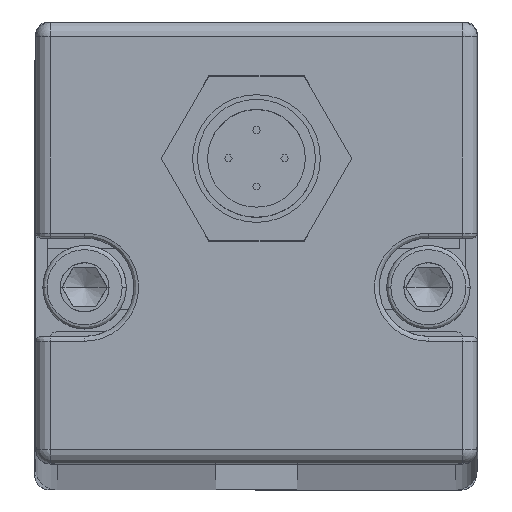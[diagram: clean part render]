
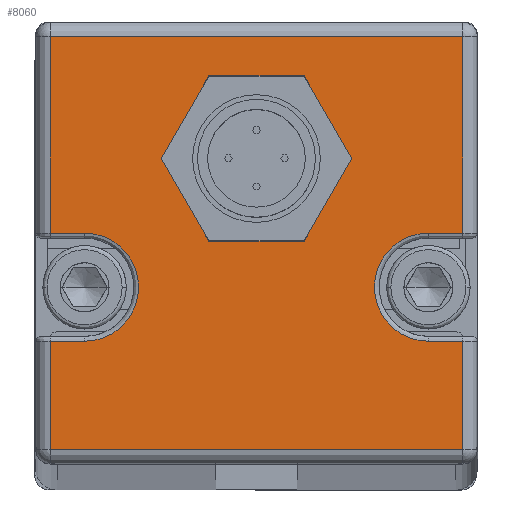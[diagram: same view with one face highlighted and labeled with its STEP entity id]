
A CAD part, top view. The second image highlights one B-rep face of the part: STEP entity #8060.
In plain terms, the highlighted planar face has unit normal (0, 0, 1) as drawn and (0, 1, 0) by its records, which use the part's own axes.
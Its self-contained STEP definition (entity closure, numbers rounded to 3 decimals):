
#7 = DIRECTION ( 'NONE',  ( 0., 0., 1. ) ) ;
#8 = DIRECTION ( 'NONE',  ( 0., 1., 0. ) ) ;
#10 = CARTESIAN_POINT ( 'NONE',  ( 0., 7., -8.6 ) ) ;
#141 = EDGE_LOOP ( 'NONE', ( #6727, #6731, #6735, #6739, #6743, #6747, #6755, #5011, #5015, #5019, #6623, #6627 ) ) ;
#214 = CARTESIAN_POINT ( 'NONE',  ( -21., 7., 22.5 ) ) ;
#221 = CARTESIAN_POINT ( 'NONE',  ( 21., 7., 9.5 ) ) ;
#233 = DIRECTION ( 'NONE',  ( 0., -1., 0. ) ) ;
#237 = CARTESIAN_POINT ( 'NONE',  ( 22.5, 7., 10. ) ) ;
#260 = CARTESIAN_POINT ( 'NONE',  ( 21., 7., -22.5 ) ) ;
#267 = DIRECTION ( 'NONE',  ( 0., 0., -1. ) ) ;
#271 = CARTESIAN_POINT ( 'NONE',  ( 22.5, 7., -21. ) ) ;
#279 = DIRECTION ( 'NONE',  ( 0., -1., 0. ) ) ;
#280 = CARTESIAN_POINT ( 'NONE',  ( 22.5, 7., -1. ) ) ;
#281 = CARTESIAN_POINT ( 'NONE',  ( 22.5, 7., 21. ) ) ;
#282 = DIRECTION ( 'NONE',  ( 1., 0., 0. ) ) ;
#283 = CARTESIAN_POINT ( 'NONE',  ( -17.5, 7., 4.5 ) ) ;
#453 = CARTESIAN_POINT ( 'NONE',  ( 22.5, 7., -1. ) ) ;
#486 = DIRECTION ( 'NONE',  ( 0., 0., 1. ) ) ;
#523 = DIRECTION ( 'NONE',  ( 0., 0., 1. ) ) ;
#532 = DIRECTION ( 'NONE',  ( -1., 0., 0. ) ) ;
#539 = DIRECTION ( 'NONE',  ( 0., 0., 1. ) ) ;
#579 = DIRECTION ( 'NONE',  ( 1., 0., 0. ) ) ;
#592 = DIRECTION ( 'NONE',  ( 0., 1., 0. ) ) ;
#602 = DIRECTION ( 'NONE',  ( 0., 0., 1. ) ) ;
#694 = CARTESIAN_POINT ( 'NONE',  ( 0., 7., -8.6 ) ) ;
#696 = CARTESIAN_POINT ( 'NONE',  ( 17.5, 7., 4.5 ) ) ;
#705 = DIRECTION ( 'NONE',  ( 1., 0., 0. ) ) ;
#719 = DIRECTION ( 'NONE',  ( -1., 0., 0. ) ) ;
#725 = DIRECTION ( 'NONE',  ( 0., 0., 1. ) ) ;
#730 = CARTESIAN_POINT ( 'NONE',  ( 22.5, 7., 10. ) ) ;
#749 = DIRECTION ( 'NONE',  ( -1., 0., 0. ) ) ;
#775 = DIRECTION ( 'NONE',  ( 0., 0., -1. ) ) ;
#781 = CARTESIAN_POINT ( 'NONE',  ( -21., 7., 22.5 ) ) ;
#1336 = VERTEX_POINT ( 'NONE', #1587 ) ;
#1385 = VERTEX_POINT ( 'NONE', #7551 ) ;
#1456 = VERTEX_POINT ( 'NONE', #7617 ) ;
#1484 = VERTEX_POINT ( 'NONE', #7463 ) ;
#1485 = VERTEX_POINT ( 'NONE', #7498 ) ;
#1488 = VERTEX_POINT ( 'NONE', #7628 ) ;
#1510 = VERTEX_POINT ( 'NONE', #7461 ) ;
#1512 = VERTEX_POINT ( 'NONE', #7633 ) ;
#1580 = VERTEX_POINT ( 'NONE', #7712 ) ;
#1587 = CARTESIAN_POINT ( 'NONE',  ( 21., 7., -21. ) ) ;
#1603 = VERTEX_POINT ( 'NONE', #7460 ) ;
#1605 = VERTEX_POINT ( 'NONE', #7674 ) ;
#1606 = VERTEX_POINT ( 'NONE', #7525 ) ;
#1635 = VERTEX_POINT ( 'NONE', #7648 ) ;
#1643 = VERTEX_POINT ( 'NONE', #1924 ) ;
#1924 = CARTESIAN_POINT ( 'NONE',  ( 0., 7., -15.1 ) ) ;
#2522 = AXIS2_PLACEMENT_3D ( 'NONE', #2732, #2741, #2742 ) ;
#2732 = CARTESIAN_POINT ( 'NONE',  ( 22.5, 7., 22.5 ) ) ;
#2740 = PLANE ( 'NONE',  #2522 ) ;
#2741 = DIRECTION ( 'NONE',  ( 0., 1., 0. ) ) ;
#2742 = DIRECTION ( 'NONE',  ( 0., 0., 1. ) ) ;
#3676 = CIRCLE ( 'NONE', #4336, 6.5 ) ;
#4231 = EDGE_CURVE ( 'NONE', #1643, #1385, #3676, .T. ) ;
#4336 = AXIS2_PLACEMENT_3D ( 'NONE', #10, #8, #7 ) ;
#4410 = FACE_BOUND ( 'NONE', #7769, .T. ) ;
#4411 = FACE_OUTER_BOUND ( 'NONE', #141, .T. ) ;
#4564 = AXIS2_PLACEMENT_3D ( 'NONE', #696, #279, #602 ) ;
#4565 = AXIS2_PLACEMENT_3D ( 'NONE', #694, #592, #539 ) ;
#4567 = AXIS2_PLACEMENT_3D ( 'NONE', #283, #233, #486 ) ;
#5011 = ORIENTED_EDGE ( 'NONE', *, *, #5195, .T. ) ;
#5015 = ORIENTED_EDGE ( 'NONE', *, *, #5201, .T. ) ;
#5019 = ORIENTED_EDGE ( 'NONE', *, *, #5200, .T. ) ;
#5190 = EDGE_CURVE ( 'NONE', #1512, #1488, #9585, .T. ) ;
#5191 = EDGE_CURVE ( 'NONE', #1603, #1606, #9545, .T. ) ;
#5192 = EDGE_CURVE ( 'NONE', #1510, #1485, #9589, .T. ) ;
#5194 = EDGE_CURVE ( 'NONE', #1485, #1336, #9580, .T. ) ;
#5195 = EDGE_CURVE ( 'NONE', #1488, #1605, #9594, .T. ) ;
#5196 = EDGE_CURVE ( 'NONE', #1606, #1510, #9598, .T. ) ;
#5197 = EDGE_CURVE ( 'NONE', #1336, #1512, #9588, .T. ) ;
#5198 = EDGE_CURVE ( 'NONE', #1580, #1603, #9599, .T. ) ;
#5199 = EDGE_CURVE ( 'NONE', #1385, #1643, #9603, .T. ) ;
#5200 = EDGE_CURVE ( 'NONE', #1635, #1484, #9591, .T. ) ;
#5201 = EDGE_CURVE ( 'NONE', #1605, #1635, #9605, .T. ) ;
#5202 = EDGE_CURVE ( 'NONE', #1456, #1580, #9596, .T. ) ;
#5203 = EDGE_CURVE ( 'NONE', #1484, #1456, #9606, .T. ) ;
#6623 = ORIENTED_EDGE ( 'NONE', *, *, #5203, .T. ) ;
#6627 = ORIENTED_EDGE ( 'NONE', *, *, #5202, .T. ) ;
#6674 = ORIENTED_EDGE ( 'NONE', *, *, #4231, .F. ) ;
#6685 = ORIENTED_EDGE ( 'NONE', *, *, #5199, .F. ) ;
#6727 = ORIENTED_EDGE ( 'NONE', *, *, #5198, .T. ) ;
#6731 = ORIENTED_EDGE ( 'NONE', *, *, #5191, .T. ) ;
#6735 = ORIENTED_EDGE ( 'NONE', *, *, #5196, .T. ) ;
#6739 = ORIENTED_EDGE ( 'NONE', *, *, #5192, .T. ) ;
#6743 = ORIENTED_EDGE ( 'NONE', *, *, #5194, .T. ) ;
#6747 = ORIENTED_EDGE ( 'NONE', *, *, #5197, .T. ) ;
#6755 = ORIENTED_EDGE ( 'NONE', *, *, #5190, .T. ) ;
#7460 = CARTESIAN_POINT ( 'NONE',  ( 21., 7., 10. ) ) ;
#7461 = CARTESIAN_POINT ( 'NONE',  ( 17.5, 7., -1. ) ) ;
#7463 = CARTESIAN_POINT ( 'NONE',  ( -21., 7., 10. ) ) ;
#7498 = CARTESIAN_POINT ( 'NONE',  ( 21., 7., -1. ) ) ;
#7525 = CARTESIAN_POINT ( 'NONE',  ( 17.5, 7., 10. ) ) ;
#7551 = CARTESIAN_POINT ( 'NONE',  ( 0., 7., -2.1 ) ) ;
#7617 = CARTESIAN_POINT ( 'NONE',  ( -21., 7., 21. ) ) ;
#7628 = CARTESIAN_POINT ( 'NONE',  ( -21., 7., -1. ) ) ;
#7633 = CARTESIAN_POINT ( 'NONE',  ( -21., 7., -21. ) ) ;
#7648 = CARTESIAN_POINT ( 'NONE',  ( -17.5, 7., 10. ) ) ;
#7674 = CARTESIAN_POINT ( 'NONE',  ( -17.5, 7., -1. ) ) ;
#7712 = CARTESIAN_POINT ( 'NONE',  ( 21., 7., 21. ) ) ;
#7769 = EDGE_LOOP ( 'NONE', ( #6685, #6674 ) ) ;
#8060 = ADVANCED_FACE ( 'NONE', ( #4410, #4411 ), #2740, .T. ) ;
#9545 = LINE ( 'NONE', #730, #9587 ) ;
#9568 = VECTOR ( 'NONE', #267, 1000. ) ;
#9580 = LINE ( 'NONE', #260, #9568 ) ;
#9585 = LINE ( 'NONE', #781, #9586 ) ;
#9586 = VECTOR ( 'NONE', #725, 1000. ) ;
#9587 = VECTOR ( 'NONE', #532, 1000. ) ;
#9588 = LINE ( 'NONE', #271, #9592 ) ;
#9589 = LINE ( 'NONE', #453, #9590 ) ;
#9590 = VECTOR ( 'NONE', #579, 1000. ) ;
#9591 = LINE ( 'NONE', #237, #9597 ) ;
#9592 = VECTOR ( 'NONE', #719, 1000. ) ;
#9594 = LINE ( 'NONE', #280, #9595 ) ;
#9595 = VECTOR ( 'NONE', #282, 1000. ) ;
#9596 = LINE ( 'NONE', #281, #9602 ) ;
#9597 = VECTOR ( 'NONE', #749, 1000. ) ;
#9598 = CIRCLE ( 'NONE', #4564, 5.5 ) ;
#9599 = LINE ( 'NONE', #221, #9600 ) ;
#9600 = VECTOR ( 'NONE', #775, 1000. ) ;
#9602 = VECTOR ( 'NONE', #705, 1000. ) ;
#9603 = CIRCLE ( 'NONE', #4565, 6.5 ) ;
#9605 = CIRCLE ( 'NONE', #4567, 5.5 ) ;
#9606 = LINE ( 'NONE', #214, #9607 ) ;
#9607 = VECTOR ( 'NONE', #523, 1000. ) ;
